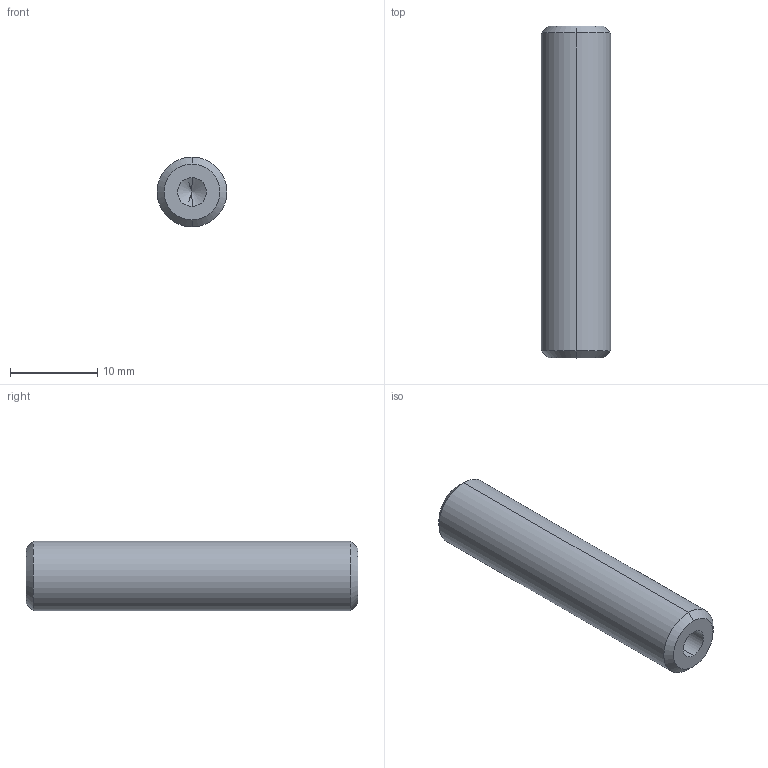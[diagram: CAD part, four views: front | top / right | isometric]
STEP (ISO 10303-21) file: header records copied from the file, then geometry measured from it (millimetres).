
FILE_DESCRIPTION (( 'STEP AP203' ), '1' );
FILE_NAME ('(STEP)MPD-1.5.STEP', '2020-03-31T03:06:40', ( '' ), ( '' ), 'SwSTEP 2.0', 'SolidWorks 2019', '' );
FILE_SCHEMA (( 'CONFIG_CONTROL_DESIGN' ));
Length unit declared in the file: millimetre
Products named in the file (1): (STEP)MPD-1.5
Bounding box: 8 x 38.1 x 8 mm (x, y, z)
Volume: 1763 mm3; surface area: 1214.4 mm2
Topology: 1 solids, 1 shells, 16 faces, 34 edges, 18 vertices
Faces by surface type: cone 8, cylinder 6, plane 2
Entity records: 479 total; most frequent: DIRECTION 80, CARTESIAN_POINT 65, ORIENTED_EDGE 60, AXIS2_PLACEMENT_3D 33, EDGE_CURVE 30, EDGE_LOOP 18, VERTEX_POINT 18, FACE_OUTER_BOUND 16
